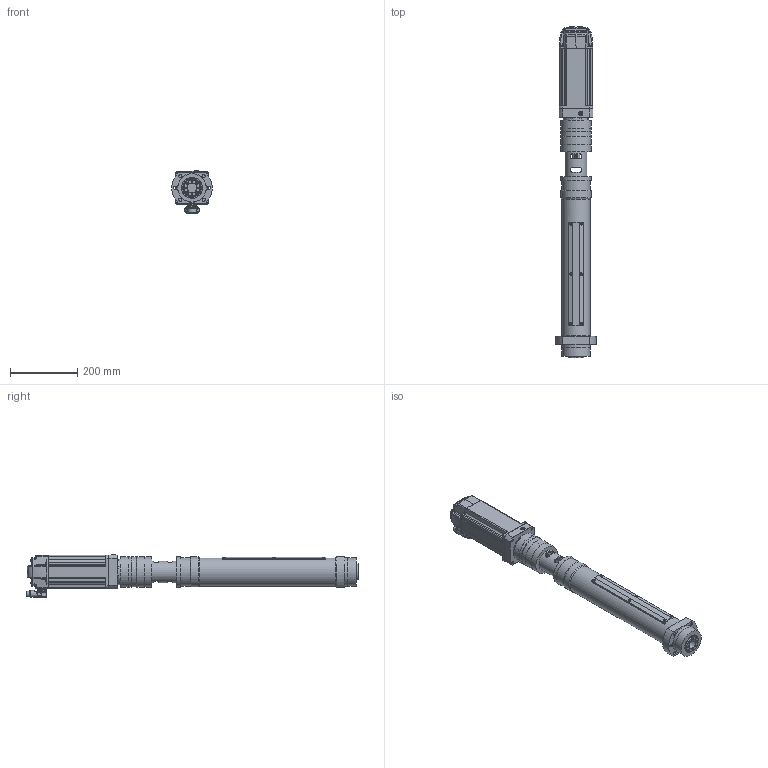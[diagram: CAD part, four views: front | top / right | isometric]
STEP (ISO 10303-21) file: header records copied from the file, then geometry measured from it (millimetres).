
FILE_DESCRIPTION(/* description */ ('Unknown'),/* implementation_level */ '2;1');
FILE_NAME(/* name */ '2 Ton 200 St Servo Press',/* time_stamp */ '2023-05-28T17:24:42+06:00',/* author */ ('Unknown'),/* organization */ ('Unknown'),/* preprocessor_version */ 'ST-DEVELOPER v16',/* originating_system */ 'DEX',/* authorisation */ $);
FILE_SCHEMA (('AUTOMOTIVE_DESIGN {1 0 10303 214 3 1 1}'));
Products named in the file (16): 022510200; 022510203-R1-Ram; 022510202-Sleeve; 022510208-Key Cover; 022510201-Front Flange; 2T Load Cell; 022510610-Bell Housing; Front Seal 506255-7-12; VRL-090C-3_10-K5-19FA19; Part204; MS2N05-D0XXN-AMDH0-NNNNN-NN; 315995; 315980; 316220; 315594; 316030
Assembly tree (15 placements, depth 3):
  022510200
    022510203-R1-Ram
    022510202-Sleeve
    022510208-Key Cover
    022510201-Front Flange
    2T Load Cell
    022510610-Bell Housing
    Front Seal 506255-7-12
    VRL-090C-3_10-K5-19FA19
      Part204
    MS2N05-D0XXN-AMDH0-NNNNN-NN
      315995
      315980
      316220
      315594
      316030
Bounding box: 120 x 984.71 x 126.2 mm (x, y, z)
Volume: 6573304.1 mm3; surface area: 672732.5 mm2
Topology: 13 solids, 21 shells, 1295 faces, 3161 edges, 1998 vertices
Faces by surface type: cylinder 448, plane 443, bspline 209, torus 90, cone 85, sphere 20
Full cylindrical faces by diameter (mm): 3.2 x4, 3.242 x12, 3.4 x4, 4 x8, 4.3 x6, 4.5 x4, 4.917 x23, 5 x8, 5.5 x11, 5.6 x4, 6 x1, 6.4 x1, 6.5 x1, 6.647 x5, 7 x6, 7.7 x4, 8 x8, 8.5 x7, 9 x10, 10 x1, 15.6 x2, 18.47 x2, 19 x3, 19.95 x1, 20.15 x2, 22 x1, 25 x2, 28 x1, 40 x4, 41 x1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
Entity records: 50268 total; most frequent: CARTESIAN_POINT 20003, ORIENTED_EDGE 5406, DIRECTION 5316, EDGE_CURVE 2703, AXIS2_PLACEMENT_3D 2181, VERTEX_POINT 1867, FACE_BOUND 1788, EDGE_LOOP 1758
